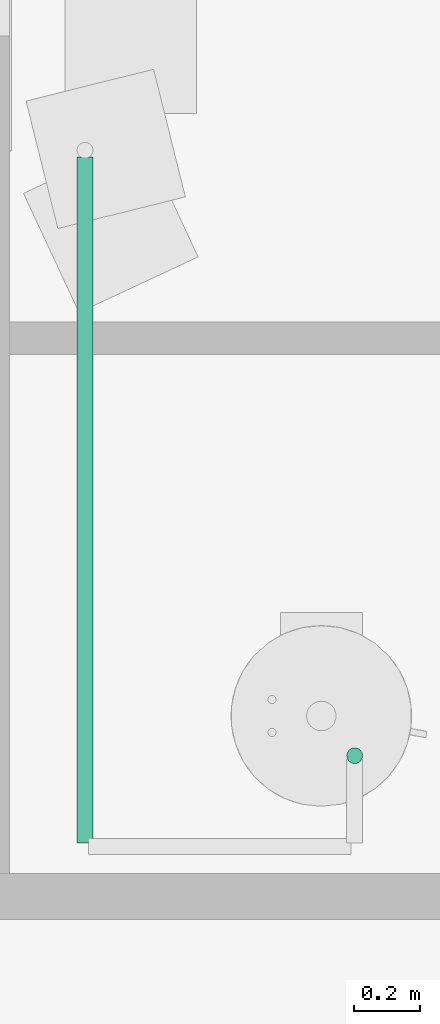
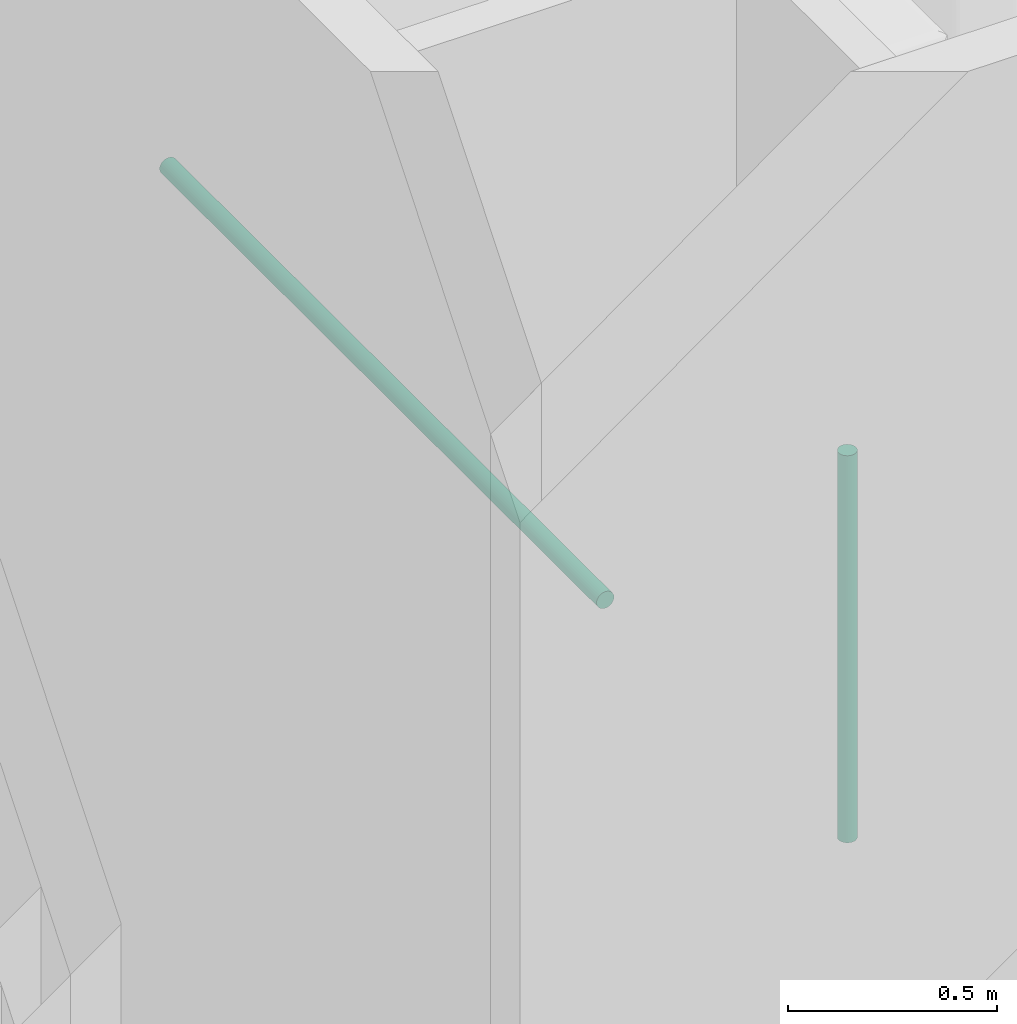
# One storey, part 27 of 69: 2 pipe segments.
"""IFC4 building model written with IfcOpenShell, lengths in centimetres."""

import ifcopenshell
import ifcopenshell.guid

model = None  # the IFC model being written
_history = None  # IfcOwnerHistory: only IFC2X3 demands one
_inside = {}  # id of a spatial element -> (the spatial element, [elements in it])
_under = {}  # id of a project, library or spatial element -> (it, [spatial elements below it])
_declared = {}  # id of a project -> (the project, [libraries it declares])
_typed = {}  # id of a type object -> (the type object, [elements of that type])
_made_of = {}  # id of a material, layer set ... -> (it, [elements and type objects made of it])


def new_model(schema):
    """Start an empty IFC model of exactly this schema.

    Asked for "IFC4X3", IfcOpenShell would pick the latest addendum, in which some entities
    have other attributes; the version numbers below select the first issue.
    IFC2X3 requires an IfcOwnerHistory on every rooted entity: one is made here for all.
    """
    global model, _history
    if schema == "IFC4X3":
        model = ifcopenshell.file(schema_version=(4, 3, 0, 0))
    else:
        model = ifcopenshell.file(schema=schema)
    _inside.clear()
    _under.clear()
    _declared.clear()
    _typed.clear()
    _made_of.clear()
    _history = None
    if model.schema == "IFC2X3":
        org = make("IfcOrganization", Name="unknown")
        user = make(
            "IfcPersonAndOrganization",
            ThePerson=make("IfcPerson", FamilyName="unknown"),
            TheOrganization=org,
        )
        app = make(
            "IfcApplication",
            ApplicationDeveloper=org,
            Version="unknown",
            ApplicationFullName="unknown",
            ApplicationIdentifier="unknown",
        )
        _history = make(
            "IfcOwnerHistory",
            OwningUser=user,
            OwningApplication=app,
            ChangeAction="ADDED",
            CreationDate=0,
        )
    return model


def make(cls, **values):
    """One entity of the class cls with the attributes given. An attribute that is None is left unset."""
    return model.create_entity(
        cls, **{name: value for name, value in values.items() if value is not None}
    )


def entity(cls, *values):
    """Any entity or typed value of the class cls, its attributes in the order of the schema. None: left unset."""
    e = model.create_entity(cls)
    for i, value in enumerate(values):
        if value is not None:
            e[i] = value
    return e


def rooted(cls, **values):
    """An entity with a GlobalId (a new one), such as an element, a storey or a relation."""
    return make(cls, GlobalId=ifcopenshell.guid.new(), OwnerHistory=_history, **values)


def si_unit(unit_type, name, prefix=None):
    """IfcSIUnit, for example si_unit("LENGTHUNIT", "METRE", prefix="MILLI")."""
    return make("IfcSIUnit", UnitType=unit_type, Prefix=prefix, Name=name)


def converted_unit(unit_type, name, factor, base, dimensions=None, offset=None):
    """IfcConversionBasedUnit, such as the inch: factor (a typed value) times the base unit."""
    return make(
        "IfcConversionBasedUnit"
        if offset is None
        else "IfcConversionBasedUnitWithOffset",
        ConversionOffset=offset,
        Dimensions=None
        if dimensions is None
        else entity("IfcDimensionalExponents", *dimensions),
        UnitType=unit_type,
        Name=name,
        ConversionFactor=make(
            "IfcMeasureWithUnit", ValueComponent=factor, UnitComponent=base
        ),
    )


def derived_unit(unit_type, elements):
    """IfcDerivedUnit: a product of units, each with its exponent."""
    return make(
        "IfcDerivedUnit",
        Elements=[
            make("IfcDerivedUnitElement", Unit=unit, Exponent=power)
            for unit, power in elements
        ],
        UnitType=unit_type,
    )


def assignment(units):
    """IfcUnitAssignment: the units of a project."""
    return None if units is None else make("IfcUnitAssignment", Units=units)


def point(xyz):
    """IfcCartesianPoint."""
    return None if xyz is None else make("IfcCartesianPoint", Coordinates=xyz)


def direction(xyz):
    """IfcDirection."""
    return None if xyz is None else make("IfcDirection", DirectionRatios=xyz)


def frame(location, z_axis=None, x_axis=None):
    """IfcAxis2Placement3D, a coordinate frame: its origin and axes. An axis left out is left unset."""
    return make(
        "IfcAxis2Placement3D",
        Location=point(location),
        Axis=direction(z_axis),
        RefDirection=direction(x_axis),
    )


def origin():
    """The frame at (0, 0, 0) with its axes left unset."""
    return frame((0.0, 0.0, 0.0))


def place(relative_to, where):
    """IfcLocalPlacement: puts the frame where relative to a parent placement (None: the world)."""
    return make(
        "IfcLocalPlacement", PlacementRelTo=relative_to, RelativePlacement=where
    )


def context(
    kind, dimensions, precision=None, world=None, true_north=None, identifier=None
):
    """IfcGeometricRepresentationContext, for example the 3D "Model" context."""
    return make(
        "IfcGeometricRepresentationContext",
        ContextIdentifier=identifier,
        ContextType=kind,
        CoordinateSpaceDimension=dimensions,
        Precision=precision,
        WorldCoordinateSystem=world,
        TrueNorth=true_north,
    )


def subcontext(parent, identifier, kind, view, scale=None):
    """IfcGeometricRepresentationSubContext, for example "Body" below "Model"."""
    return make(
        "IfcGeometricRepresentationSubContext",
        ContextIdentifier=identifier,
        ContextType=kind,
        ParentContext=parent,
        TargetScale=scale,
        TargetView=view,
    )


def project(units=None, contexts=None):
    """IfcProject with its units and contexts."""
    return rooted(
        "IfcProject",
        Name="project",
        RepresentationContexts=contexts,
        UnitsInContext=assignment(units),
    )


def spatial(cls, under=None, at=None, **own):
    """A site, building, storey or space (cls), placed at a placement, below another one or the project."""
    s = rooted(cls, ObjectPlacement=at, **own)
    if under is not None:
        _under.setdefault(under.id(), (under, []))[1].append(s)
    return s


def point_list(points):
    """IfcCartesianPointList2D or 3D."""
    cls = (
        "IfcCartesianPointList2D" if len(points[0]) == 2 else "IfcCartesianPointList3D"
    )
    return make(cls, CoordList=points)


def arc(*indices):
    """IfcArcIndex: an arc through three numbered points of an indexed curve."""
    return model.create_entity("IfcArcIndex", indices)


def indexed_curve(points, segments=None, self_intersect=None):
    """IfcIndexedPolyCurve: lines and arcs through numbered points (the first is 1)."""
    return make(
        "IfcIndexedPolyCurve",
        Points=point_list(points),
        Segments=segments,
        SelfIntersect=self_intersect,
    )


def outline(outer, holes=None, kind="AREA"):
    """IfcArbitraryClosedProfileDef: a profile drawn as a closed curve; with holes, ...WithVoids."""
    if holes is None:
        return make("IfcArbitraryClosedProfileDef", ProfileType=kind, OuterCurve=outer)
    return make(
        "IfcArbitraryProfileDefWithVoids",
        ProfileType=kind,
        OuterCurve=outer,
        InnerCurves=holes,
    )


def extrude(swept, where, along, depth):
    """IfcExtrudedAreaSolid: the profile swept, set in the frame where, extruded along a direction by depth."""
    return make(
        "IfcExtrudedAreaSolid",
        SweptArea=swept,
        Position=where,
        ExtrudedDirection=direction(along),
        Depth=depth,
    )


def shape(context_of_items, identifier, shape_type, items):
    """IfcShapeRepresentation: the items that make up one representation, for example the "Body"."""
    return make(
        "IfcShapeRepresentation",
        ContextOfItems=context_of_items,
        RepresentationIdentifier=identifier,
        RepresentationType=shape_type,
        Items=items,
    )


def made_of(thing, what):
    """Note that an element or type object is made of a material, layer set ...; save() writes the relation."""
    if what is not None:
        _made_of.setdefault(what.id(), (what, []))[1].append(thing)
    return thing


def type_object(cls, material=None, **own):
    """A type object (cls), such as IfcWallType, which elements share."""
    return made_of(rooted(cls, **own), material)


def element(
    cls,
    number,
    at=None,
    inside=None,
    cuts=None,
    type_object=None,
    material=None,
    context=None,
    identifier="Body",
    shape_type=None,
    held_by="IfcProductDefinitionShape",
    body=None,
    shapes=None,
    **own,
):
    """One element of the class cls, such as IfcWall. Its Tag is "e" and its number.

    at: its placement. inside: the storey or other place that contains it. cuts: it is an
    opening in that element (IfcRelVoidsElement). A single representation is given by context,
    identifier, shape_type and body (its items); several are given by shapes. held_by: the class
    of the entity that holds the representations. save() writes the other relations.
    """
    e = rooted(cls, Tag="e%d" % number, ObjectPlacement=at, **own)
    if body is not None:
        shapes = [shape(context, identifier, shape_type, body)]
    if shapes is not None:
        e.Representation = make(held_by, Representations=shapes)
    if inside is not None:
        _inside.setdefault(inside.id(), (inside, []))[1].append(e)
    if cuts is not None:
        rooted(
            "IfcRelVoidsElement", RelatingBuildingElement=cuts, RelatedOpeningElement=e
        )
    if type_object is not None:
        _typed.setdefault(type_object.id(), (type_object, []))[1].append(e)
    return made_of(e, material)


def aggregate(whole, parts):
    """IfcRelAggregates: a whole, such as a stair, and the parts it consists of."""
    return rooted("IfcRelAggregates", RelatingObject=whole, RelatedObjects=parts)


def save(model, path):
    """Write the relations noted so far, then the file.

    IfcRelAggregates (storeys below a building ...), IfcRelContainedInSpatialStructure (elements
    in a storey), IfcRelDefinesByType, IfcRelAssociatesMaterial and IfcRelDeclares: one each for
    every whole, place, type object, material and project.
    """
    for whole, parts in _under.values():
        aggregate(whole, parts)
    for where, things in _inside.values():
        rooted(
            "IfcRelContainedInSpatialStructure",
            RelatedElements=things,
            RelatingStructure=where,
        )
    for kind, things in _typed.values():
        rooted("IfcRelDefinesByType", RelatedObjects=things, RelatingType=kind)
    for what, things in _made_of.values():
        rooted("IfcRelAssociatesMaterial", RelatedObjects=things, RelatingMaterial=what)
    for by, libraries in _declared.values():
        rooted("IfcRelDeclares", RelatingContext=by, RelatedDefinitions=libraries)
    model.write(path)


model = new_model("IFC4")

# Units and contexts
model_context = context("Model", 3, precision=0.001, world=origin(), true_north=direction((6.123233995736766e-17, 1.0)))
body_context = subcontext(model_context, "Body", "Model", "MODEL_VIEW")
ifc_project = project(units=[si_unit("LENGTHUNIT", "METRE", prefix="CENTI"), si_unit("AREAUNIT", "SQUARE_METRE"), si_unit("VOLUMEUNIT", "CUBIC_METRE"), derived_unit("THERMALTRANSMITTANCEUNIT", [(si_unit("MASSUNIT", "GRAM", prefix="KILO"), 1), (si_unit("THERMODYNAMICTEMPERATUREUNIT", "KELVIN"), -1), (si_unit("TIMEUNIT", "SECOND"), -3)]), converted_unit("PLANEANGLEUNIT", "DEGREE", entity("IfcPlaneAngleMeasure", 0.017453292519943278), si_unit("PLANEANGLEUNIT", "RADIAN"), dimensions=[0, 0, 0, 0, 0, 0, 0]), derived_unit("MASSDENSITYUNIT", [(si_unit("MASSUNIT", "GRAM", prefix="KILO"), 1), (si_unit("LENGTHUNIT", "METRE"), -3)]), derived_unit("VAPORPERMEABILITYUNIT", [(si_unit("LENGTHUNIT", "METRE"), -1), (si_unit("TIMEUNIT", "SECOND"), 1)]), derived_unit("USERDEFINED", [(si_unit("MASSUNIT", "GRAM", prefix="KILO"), 1), (si_unit("TIMEUNIT", "SECOND"), -3), (si_unit("LENGTHUNIT", "METRE"), 3), (si_unit("ELECTRICCURRENTUNIT", "AMPERE"), -2)]), derived_unit("SPECIFICHEATCAPACITYUNIT", [(si_unit("THERMODYNAMICTEMPERATUREUNIT", "KELVIN"), -1), (si_unit("LENGTHUNIT", "METRE"), 2), (si_unit("TIMEUNIT", "SECOND"), -2)]), derived_unit("THERMALCONDUCTANCEUNIT", [(si_unit("MASSUNIT", "GRAM", prefix="KILO"), 1), (si_unit("THERMODYNAMICTEMPERATUREUNIT", "KELVIN"), -1), (si_unit("TIMEUNIT", "SECOND"), -3), (si_unit("LENGTHUNIT", "METRE"), 1)]), si_unit("PRESSUREUNIT", "PASCAL"), derived_unit("MODULUSOFELASTICITYUNIT", [(si_unit("MASSUNIT", "GRAM", prefix="KILO"), 1), (si_unit("LENGTHUNIT", "METRE"), -1), (si_unit("TIMEUNIT", "SECOND"), -2)]), derived_unit("THERMALEXPANSIONCOEFFICIENTUNIT", [(si_unit("THERMODYNAMICTEMPERATUREUNIT", "KELVIN"), -1)])], contexts=[model_context])

# Site, building, storey
site_placement = place(None, origin())
site = spatial("IfcSite", under=ifc_project, at=site_placement, Name="Default", CompositionType="ELEMENT")
building_placement = place(site_placement, origin())
building = spatial("IfcBuilding", under=site, at=building_placement, Name="IDS Escape Game Building", CompositionType="ELEMENT")
storey_placement = place(building_placement, origin())
storey = spatial("IfcBuildingStorey", under=building, at=storey_placement, Name="00_Ground Floor", CompositionType="ELEMENT", Elevation=0.0)

# Pipe segments
pipe_segment_type = type_object("IfcPipeSegmentType", Name="Pipe Types:Piping Aluminum", PredefinedType="NOTDEFINED")
pipe_segment_1_placement = place(storey_placement, origin())
element("IfcPipeSegment", 1, at=pipe_segment_1_placement, inside=storey, type_object=pipe_segment_type, Name="Pipe Types:Piping Aluminum", ObjectType="Pipe Types:Piping Aluminum", PredefinedType="NOTDEFINED", context=body_context, shape_type="SweptSolid", body=[
    extrude(outline(indexed_curve([(2.412999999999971, 0.0), (1.7062486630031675, 1.7062486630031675), (0.0, 2.412999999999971), (-1.7062486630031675, 1.7062486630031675), (-2.412999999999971, 0.0), (-1.7062486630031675, -1.7062486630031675), (0.0, -2.412999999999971), (1.7062486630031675, -1.7062486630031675)], segments=[arc(1, 2, 3), arc(3, 4, 5), arc(5, 6, 7), arc(7, 8, 1)], self_intersect=False)), frame((850.1500000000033, 2600.9000000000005, 128.0), z_axis=(0.0, 0.0, 1.0), x_axis=(-1.0, 0.0, 0.0)), (0.0, 0.0, 1.0), 112.90000000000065),
])
pipe_segment_2_placement = place(storey_placement, origin())
element("IfcPipeSegment", 2, at=pipe_segment_2_placement, inside=storey, type_object=pipe_segment_type, Name="Pipe Types:Piping Aluminum", ObjectType="Pipe Types:Piping Aluminum", PredefinedType="NOTDEFINED", context=body_context, shape_type="SweptSolid", body=[
    extrude(outline(indexed_curve([(2.412999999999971, 0.0), (1.7062486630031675, 1.7062486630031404), (0.0, 2.412999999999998), (-1.7062486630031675, 1.7062486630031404), (-2.412999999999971, 2.7071678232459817e-14), (-1.7062486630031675, -1.7062486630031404), (0.0, -2.412999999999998), (1.7062486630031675, -1.7062486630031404)], segments=[arc(1, 2, 3), arc(3, 4, 5), arc(5, 6, 7), arc(7, 8, 1)], self_intersect=False)), frame((768.0467168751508, 2574.3648279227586, 242.0), z_axis=(0.0, 1.0, 0.0), x_axis=(1.0, 0.0, 0.0)), (0.0, 0.0, 1.0), 208.80000000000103),
])

save(model, "model.ifc")
